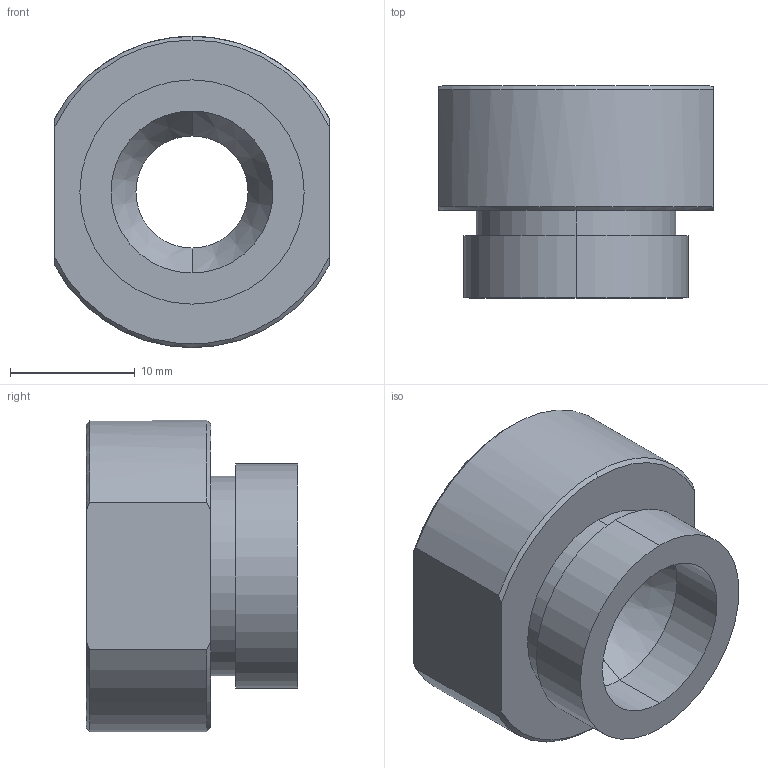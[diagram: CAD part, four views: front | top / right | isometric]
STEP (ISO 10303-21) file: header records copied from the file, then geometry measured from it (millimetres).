
FILE_DESCRIPTION (( 'STEP AP203' ), '1' );
FILE_NAME ('SW-PN-C8A.STEP', '2022-04-06T02:29:24', ( '' ), ( '' ), 'SwSTEP 2.0', 'SolidWorks 2015', '' );
FILE_SCHEMA (( 'CONFIG_CONTROL_DESIGN' ));
Length unit declared in the file: millimetre
Products named in the file (2): SW-PN-C8A
Bounding box: 22 x 17 x 25 mm (x, y, z)
Volume: 4828.8 mm3; surface area: 2556.4 mm2
Topology: 1 solids, 1 shells, 27 faces, 62 edges, 39 vertices
Faces by surface type: cylinder 11, cone 10, plane 6
Entity records: 938 total; most frequent: CARTESIAN_POINT 154, DIRECTION 143, ORIENTED_EDGE 124, EDGE_CURVE 62, AXIS2_PLACEMENT_3D 60, VERTEX_POINT 39, CIRCLE 31, EDGE_LOOP 31
